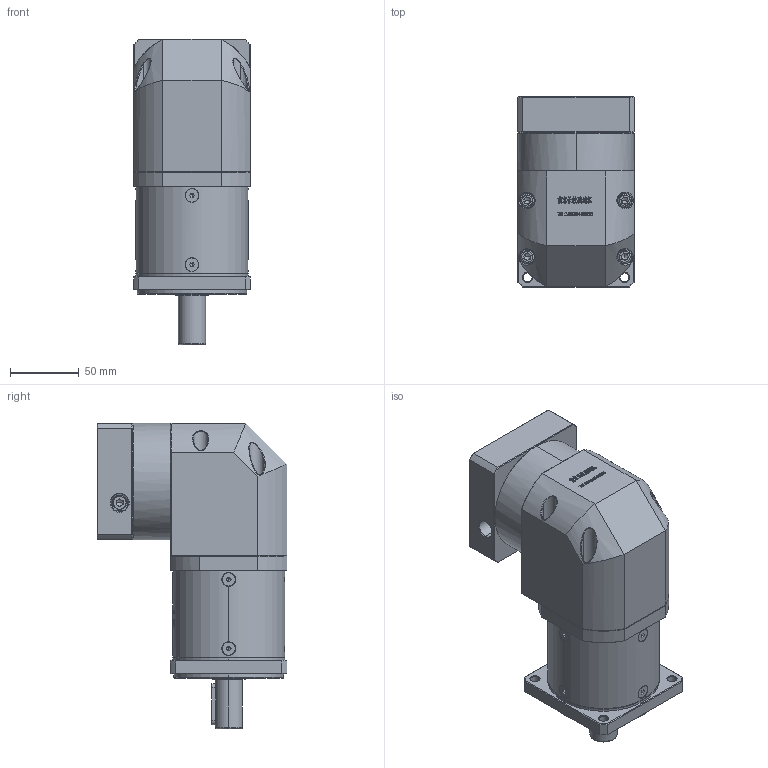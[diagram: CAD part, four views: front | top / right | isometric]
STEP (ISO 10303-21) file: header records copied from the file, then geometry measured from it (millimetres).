
FILE_DESCRIPTION (( 'STEP AP214' ), '1' );
FILE_NAME ('ZFR80-D20-L2-19-80-100-M6.step', '2022-05-08T12:05:55', ( '' ), ( 'Microsoft' ), 'SwSTEP 2.0', 'SolidWorks 2016', '' );
FILE_SCHEMA (( 'AUTOMOTIVE_DESIGN' ));
Length unit declared in the file: millimetre
Products named in the file (1): ZFR80-D20-L2-19-80-100-M6
Bounding box: 85 x 138.6 x 223 mm (x, y, z)
Volume: 1360763 mm3; surface area: 141021 mm2
Topology: 13 solids, 13 shells, 3061 faces, 8047 edges, 5136 vertices
Faces by surface type: plane 1617, bspline 624, cylinder 441, cone 365, torus 14
Entity records: 165081 total; most frequent: CARTESIAN_POINT 61585, ORIENTED_EDGE 16002, DIRECTION 12050, EDGE_CURVE 8001, VERTEX_POINT 5136, LINE 4968, VECTOR 4968, AXIS2_PLACEMENT_3D 3541
